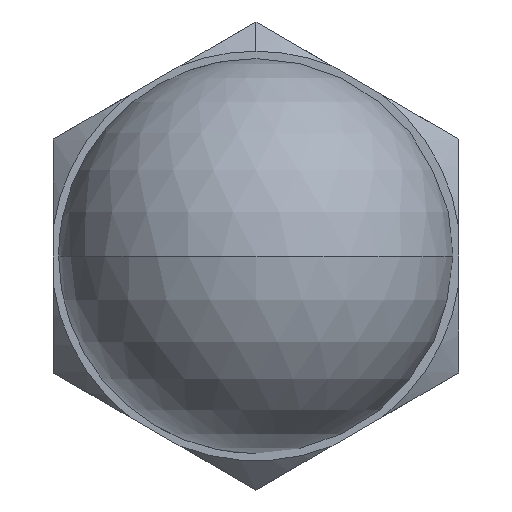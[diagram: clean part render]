
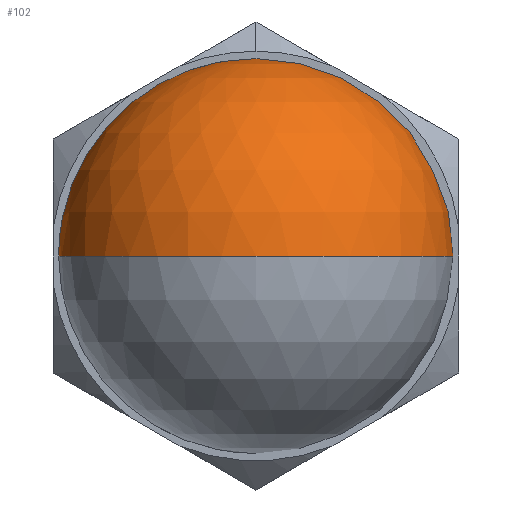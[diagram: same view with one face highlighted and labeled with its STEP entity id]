
A CAD part, front view. The second image highlights one B-rep face of the part: STEP entity #102.
In plain terms, the highlighted spherical face has radius 6.75 mm.
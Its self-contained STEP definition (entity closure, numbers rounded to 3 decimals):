
#51 = SPHERICAL_SURFACE ( 'NONE', #946, 6.75 ) ;
#91 = CIRCLE ( 'NONE', #818, 5. ) ;
#92 = EDGE_CURVE ( 'NONE', #747, #849, #888, .T. ) ;
#102 = ADVANCED_FACE ( 'NONE', ( #440 ), #51, .T. ) ;
#134 = DIRECTION ( 'NONE',  ( 0., 0., 1. ) ) ;
#176 = EDGE_CURVE ( 'NONE', #787, #485, #91, .T. ) ;
#184 = DIRECTION ( 'NONE',  ( 0., 0., -1. ) ) ;
#265 = CARTESIAN_POINT ( 'NONE',  ( 0., 6.75, 0. ) ) ;
#273 = CIRCLE ( 'NONE', #684, 5. ) ;
#292 = EDGE_CURVE ( 'NONE', #747, #787, #273, .T. ) ;
#364 = EDGE_CURVE ( 'NONE', #485, #849, #504, .T. ) ;
#376 = DIRECTION ( 'NONE',  ( 0., -1., 0. ) ) ;
#440 = FACE_OUTER_BOUND ( 'NONE', #915, .T. ) ;
#478 = CARTESIAN_POINT ( 'NONE',  ( 0., 0., 0. ) ) ;
#485 = VERTEX_POINT ( 'NONE', #663 ) ;
#504 = CIRCLE ( 'NONE', #681, 6.75 ) ;
#506 = DIRECTION ( 'NONE',  ( 0., -1., 0. ) ) ;
#529 = DIRECTION ( 'NONE',  ( 0., 0., -1. ) ) ;
#640 = ORIENTED_EDGE ( 'NONE', *, *, #92, .F. ) ;
#657 = ORIENTED_EDGE ( 'NONE', *, *, #292, .T. ) ;
#658 = ORIENTED_EDGE ( 'NONE', *, *, #176, .T. ) ;
#661 = CARTESIAN_POINT ( 'NONE',  ( 0., 6.75, 0. ) ) ;
#663 = CARTESIAN_POINT ( 'NONE',  ( -5., 11.285, 0. ) ) ;
#681 = AXIS2_PLACEMENT_3D ( 'NONE', #661, #134, #749 ) ;
#684 = AXIS2_PLACEMENT_3D ( 'NONE', #911, #376, #976 ) ;
#714 = ORIENTED_EDGE ( 'NONE', *, *, #364, .T. ) ;
#747 = VERTEX_POINT ( 'NONE', #1026 ) ;
#749 = DIRECTION ( 'NONE',  ( 1., 0., 0. ) ) ;
#787 = VERTEX_POINT ( 'NONE', #796 ) ;
#796 = CARTESIAN_POINT ( 'NONE',  ( 0., 11.285, 5. ) ) ;
#818 = AXIS2_PLACEMENT_3D ( 'NONE', #1013, #506, #1086 ) ;
#849 = VERTEX_POINT ( 'NONE', #478 ) ;
#888 = CIRCLE ( 'NONE', #969, 6.75 ) ;
#889 = DIRECTION ( 'NONE',  ( -1., 0., 0. ) ) ;
#911 = CARTESIAN_POINT ( 'NONE',  ( 0., 11.285, 0. ) ) ;
#915 = EDGE_LOOP ( 'NONE', ( #640, #657, #658, #714 ) ) ;
#946 = AXIS2_PLACEMENT_3D ( 'NONE', #265, #184, #889 ) ;
#969 = AXIS2_PLACEMENT_3D ( 'NONE', #1031, #529, #1098 ) ;
#976 = DIRECTION ( 'NONE',  ( 0., 0., -1. ) ) ;
#1013 = CARTESIAN_POINT ( 'NONE',  ( 0., 11.285, 0. ) ) ;
#1026 = CARTESIAN_POINT ( 'NONE',  ( 5., 11.285, 0. ) ) ;
#1031 = CARTESIAN_POINT ( 'NONE',  ( 0., 6.75, 0. ) ) ;
#1086 = DIRECTION ( 'NONE',  ( 0., 0., -1. ) ) ;
#1098 = DIRECTION ( 'NONE',  ( -1., 0., 0. ) ) ;
